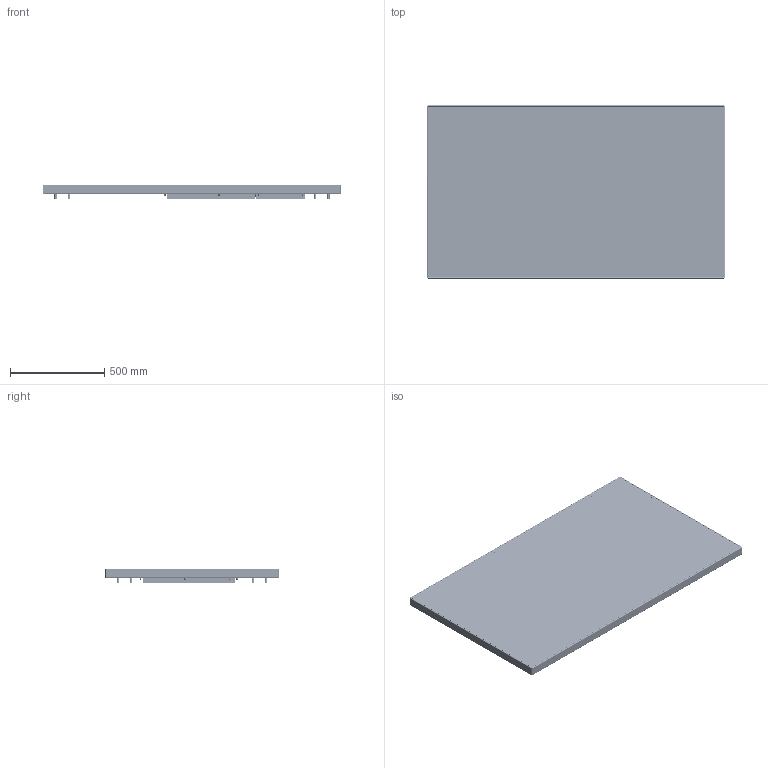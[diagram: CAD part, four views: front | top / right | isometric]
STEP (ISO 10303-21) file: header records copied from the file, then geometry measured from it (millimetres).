
FILE_DESCRIPTION (( 'STEP AP214' ), '1' );
FILE_NAME ('UltraLUX 70 Display.STEP', '2012-10-25T20:25:42', ( 'landesk' ), ( 'Planar Systems, iNC.' ), 'SwSTEP 2.0', 'SolidWorks 2012', '' );
FILE_SCHEMA (( 'AUTOMOTIVE_DESIGN' ));
Length unit declared in the file: inch
Products named in the file (52): 572-3698; 572-3694; 572-3697; 572-3722; 572-3725; 572-3701; 572-3692; 572-3693; 572-3598; 572-3689; 572-3688; 572-3595; 572-3696; 572-3605; P - PEM PF50-M3-1 CN; 572-3695; 572-3713; 572-3714_w extrusion; 572-3617; self-clinching nut_pmm_PEM S-M6-0 ZI--N; 572-3617_Panel Back Plate; flat head screw_am_B18.6.7M - M3 x 0.5 x 8 Type I Cross Recessed FHMS --8C; F-M3-2; 572-3719; 572-3717; 572-3683; 572-3682; 572-3721_Panel Back Plate; 572-3687_Panel Back Plate; 572-3684; 572-3686; thru-hole standoff_pmm_PEM SO-M3-3 ZI--N; 572-3724_w PEMS; floating fastener_pmm_PEM AS-M3-2 ZI--N; 572-3724; 572-3723_w PEMS; 572-3723; 572-3691; thin sheet standoff_pmm_PEM TSO-6M3-300 ZI--N; 572-3730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
Assembly tree (187 placements, depth 5):
  UltraLUX 70 Display
    591-0296
    572-3714_w extrusion
      572-3715
      LUX 70 extrusion frame assembly
        572-3681_short  x2
        572-3680_70 Long  x2
        572-3590  x3
      blind standoff_pmm_PEM BSO-3.5M3-6 ZI--N  x22
      572-3730  x2
        572-3730_Panel Back Plate
        self-clinching nut_pmm_PEM S-M5-2 ZI--N
      572-3691
        572-3691
        thin sheet standoff_pmm_PEM TSO-6M3-300 ZI--N  x4
      572-3684
        572-3723_w PEMS  x4
          572-3723
          blind standoff_pmm_PEM BSO-3.5M3-6 ZI--N
        572-3724_w PEMS  x5
          572-3724
          floating fastener_pmm_PEM AS-M3-2 ZI--N
        572-3686
          572-3686
          thru-hole standoff_pmm_PEM SO-M3-3 ZI--N  x6
      572-3687_Panel Back Plate  x2
      572-3721_Panel Back Plate  x2
      572-3682  x4
      572-3683
      572-3717
      572-3719  x2
      F-M3-2  x32
      flat head screw_am_B18.6.7M - M3 x 0.5 x 8 Type I Cross Recessed FHMS --8C  x32
      572-3617  x4
        572-3617_Panel Back Plate
        self-clinching nut_pmm_PEM S-M6-0 ZI--N
    572-3713
    572-3696
      572-3695
      P - PEM PF50-M3-1 CN  x6
      572-3605
      F-M3-2  x2
    572-3689
      572-3595
      572-3688
      P - PEM PF50-M3-1 CN  x4
      F-M3-2  x2
    572-3692  x4
      572-3598
      572-3693
    572-3701
    572-3725
    572-3722
    572-3698
      572-3697
      572-3694
Bounding box: 1580.7 x 919.51 x 75.44 mm (x, y, z)
Volume: 11086453.5 mm3; surface area: 9365510.7 mm2
Topology: 207 solids, 207 shells, 9655 faces, 24315 edges, 15407 vertices
Faces by surface type: plane 5027, cylinder 3106, cone 1240, torus 154, bspline 128
Entity records: 108787 total; most frequent: CARTESIAN_POINT 21549, DIRECTION 18342, ORIENTED_EDGE 17024, EDGE_CURVE 8512, AXIS2_PLACEMENT_3D 6592, VERTEX_POINT 5418, VECTOR 5158, LINE 5158
